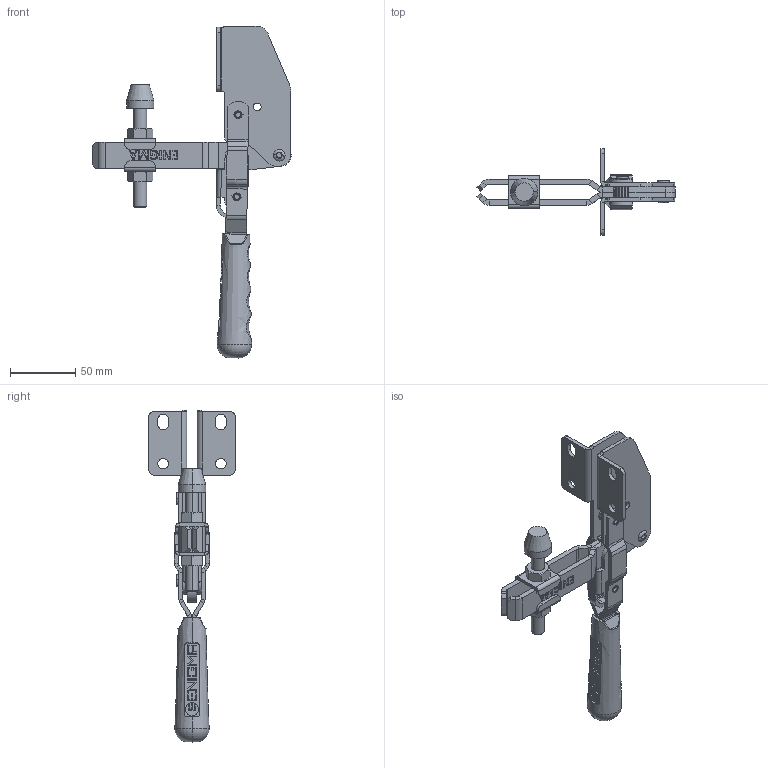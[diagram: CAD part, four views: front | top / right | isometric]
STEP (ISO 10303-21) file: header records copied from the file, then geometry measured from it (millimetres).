
FILE_DESCRIPTION (( 'STEP AP214' ), '1' );
FILE_NAME ('1104-A.STEP', '2022-05-31T12:57:47', ( '' ), ( '' ), 'SwSTEP 2.0', 'SolidWorks 2020', '' );
FILE_SCHEMA (( 'AUTOMOTIVE_DESIGN' ));
Length unit declared in the file: millimetre
Products named in the file (15): 6x23,5_PERﾇﾝN; 10x6x14_BURÇ; 1104 MAFSAL; M10 Aský; 1104 BASKI KOLU; 1104_A_REV1_GÖVDE; M10 Somun; 1104 HAREKET KOLU; Aynalama1104_A_REV1_GÖVDE; Baský M10; 6x17,5_PERﾇﾝN; C95_Yeni_Tutamak; 10x6x8_BURÇ; Aynalama1104 BASKI KOLU; 1104-A
Assembly tree (21 placements, depth 2):
  1104-A
    1104 BASKI KOLU
    Aynalama1104 BASKI KOLU
    10x6x8_BURÇ  x2
    10x6x14_BURÇ  x2
    1104 MAFSAL
    1104 HAREKET KOLU  x2
    6x17,5_PERﾇﾝN  x2
    6x23,5_PERﾇﾝN  x2
    C95_Yeni_Tutamak
    1104_A_REV1_GÖVDE
    Aynalama1104_A_REV1_GÖVDE
    M10 Aský  x2
    Baský M10
    M10 Somun  x2
Bounding box: 152.14 x 66.29 x 254.68 mm (x, y, z)
Volume: 135524.3 mm3; surface area: 87057.3 mm2
Topology: 21 solids, 21 shells, 1240 faces, 3075 edges, 1944 vertices
Faces by surface type: plane 816, cylinder 252, cone 74, bspline 60, torus 36, sphere 2
Entity records: 29634 total; most frequent: CARTESIAN_POINT 7609, ORIENTED_EDGE 4364, DIRECTION 4187, EDGE_CURVE 2182, VECTOR 1479, LINE 1479, VERTEX_POINT 1388, AXIS2_PLACEMENT_3D 1354
